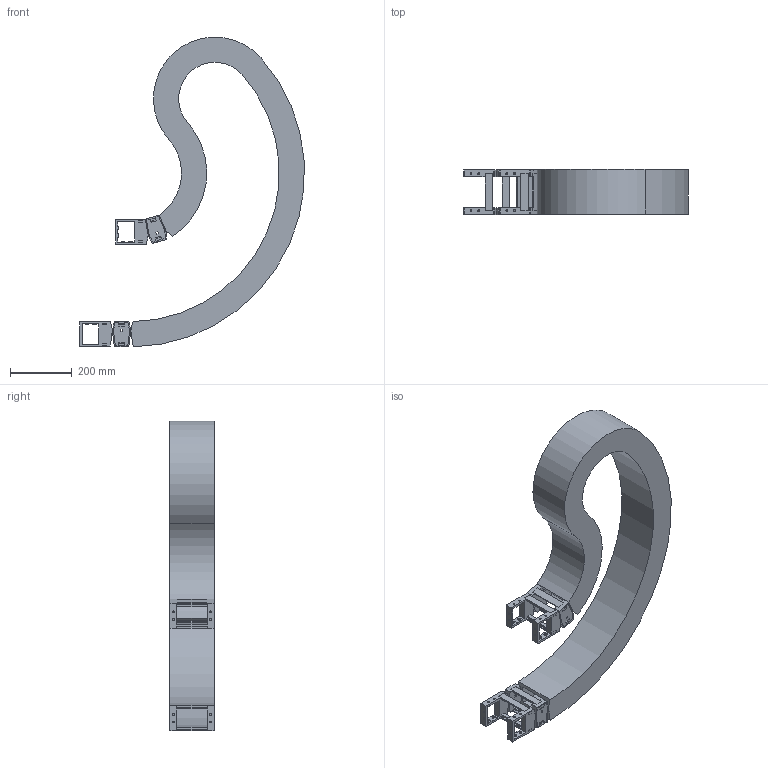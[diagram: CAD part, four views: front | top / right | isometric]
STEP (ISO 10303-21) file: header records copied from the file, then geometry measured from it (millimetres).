
FILE_DESCRIPTION( ( 'STEP AP214' ), '1' );
FILE_NAME( 'p:/temp/worker_34/temp/exporttempdir_772_2068_8RDWx/format_0/RV060CRA145149.5165120400485-001003025.05950.stp', '2021-07-27T05:40:23', ( 'License CC BY-ND 4.0' ), ( 'CADENAS' ), ' ', 'PARTsolutions', ' ' );
FILE_SCHEMA( ( 'AUTOMOTIVE_DESIGN { 1 0 10303 214 1 1 1 1 }' ) );
Length unit declared in the file: millimetre
Products named in the file (4): RV060CRA145149.5165120400485-001003025.05950; _RV060CRA145153165120400485-001001845.047-Chain; _RV060CR-SU-100-60; _RV060CR_FB-145
Assembly tree (5 placements, depth 2):
  RV060CRA145149.5165120400485-001003025.05950
    _RV060CRA145153165120400485-001001845.047-Chain
    _RV060CR-SU-100-60  x2
    _RV060CR_FB-145  x2
Bounding box: 729.03 x 145 x 1006.74 mm (x, y, z)
Volume: 12626099 mm3; surface area: 1813918.3 mm2
Topology: 5 solids, 5 shells, 508 faces, 1476 edges, 988 vertices
Faces by surface type: plane 400, cylinder 108
Full cylindrical faces by diameter (mm): 6 x24
Entity records: 10820 total; most frequent: CARTESIAN_POINT 1528, ORIENTED_EDGE 1500, DIRECTION 1410, EDGE_CURVE 750, LINE 630, VECTOR 630, VERTEX_POINT 508, AXIS2_PLACEMENT_3D 390
